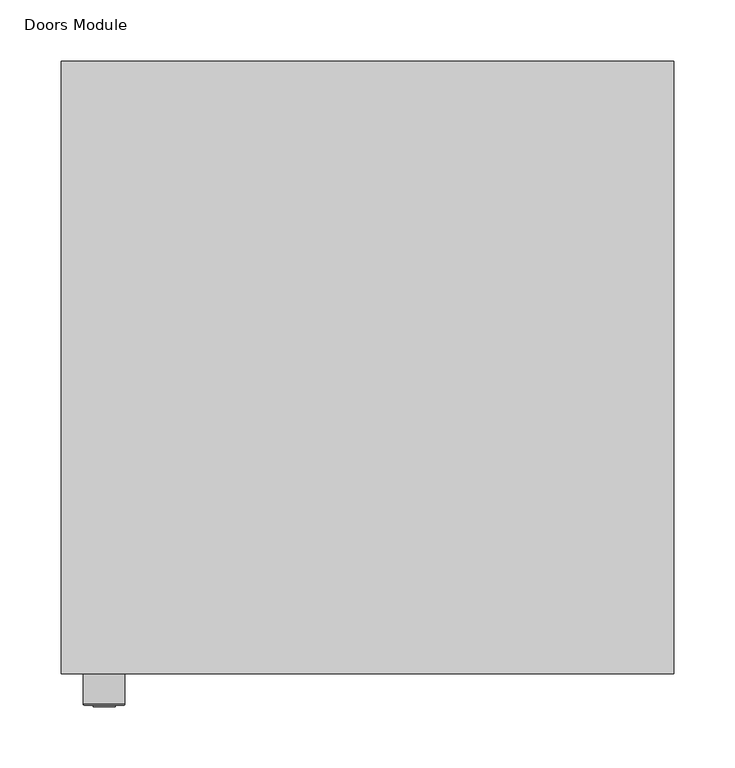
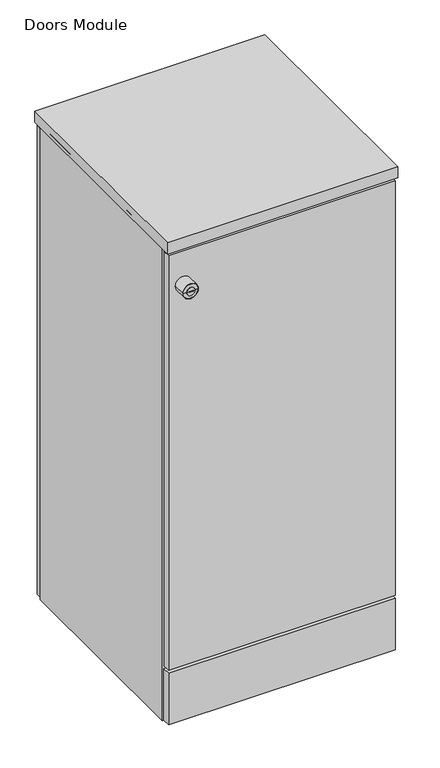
"""IFC4 building model written with IfcOpenShell, lengths in millimetres: furniture geometry, Furniture_Storage_Spacestor_SignatureStoragewall : Doors Module."""

from ifc_helpers import new_model, si_unit, point, frame, origin, origin_with_axes, place, context, project, spatial, polyline, circle_curve, ellipse_curve, trimmed, outline, extrude, source, transform, mapped, element, save
from ifc_brep_helpers import plane_surface, cylinder_surface, revolved_surface, advanced_brep


def doors_module_73139786(model_context):
    return source(origin(), model_context, "Body", "SolidModel", [
        extrude(outline(polyline([(496.5, 459.0), (3.5, 459.0), (3.5, 477.0), (496.5, 477.0), (496.5, 459.0)])), origin_with_axes(), (0.0, 0.0, 1.0), 1078.0),
        extrude(outline(polyline([(496.5, -18.0), (3.5, -18.0), (3.5, 0.0), (496.5, 0.0), (496.5, -18.0)])), origin_with_axes(), (0.0, 0.0, 1.0), 118.0),
        extrude(outline(polyline([(500.0, -20.5), (0.0, -20.5), (0.0, 479.5), (500.0, 479.5), (500.0, -20.5)])), frame((0.0, 0.0, 1085.0), z_axis=(0.0, 0.0, 1.0), x_axis=(1.0, 0.0, 0.0)), (0.0, 0.0, 1.0), 25.5),
        extrude(outline(polyline([(500.0, 0.0), (489.0, 0.0), (489.0, 459.0), (500.0, 459.0), (500.0, 0.0)])), origin_with_axes(), (0.0, 0.0, 1.0), 1092.5),
        extrude(outline(polyline([(11.0, 0.0), (0.0, 0.0), (0.0, 459.0), (11.0, 459.0), (11.0, 0.0)])), origin_with_axes(), (0.0, 0.0, 1.0), 1092.5),
        advanced_brep(
        [(52.0, -45.3116344, 1003.0), (18.0, -45.3116344, 1003.0), (18.0, -18.0, 1003.0), (52.0, -18.0, 1003.0), (35.0, -18.0, 1003.0), (43.9747319, -46.3150077, 1003.0), (26.0252681, -46.3150077, 1003.0), (19.0033734, -46.3150077, 1003.0), (50.9966266, -46.3150077, 1003.0), (43.9747319, -47.4703043, 1003.0), (26.0252681, -47.4703043, 1003.0), (39.8245152, -47.4703043, 1003.0), (39.8245152, -47.4703043, 1001.6366562), (30.1754848, -47.4703043, 1001.6366562), (30.1754848, -47.4703043, 1003.0), (30.1754848, -47.4703043, 1004.3633438), (39.8245152, -47.4703043, 1004.3633438), (30.1754848, -27.8604291, 1001.6366562), (39.8245152, -27.8604291, 1001.6366562), (39.8245152, -27.8604291, 1004.3633438), (30.1754848, -27.8604291, 1004.3633438)],
        [
            (0, 1, circle_curve(frame((35.0, -45.3116344, 1003.0), z_axis=(0.0, 1.0, 0.0), x_axis=(-1.0, 0.0, 0.0)), 17.0)),
            (1, 2),
            (2, 3, circle_curve(frame((35.0, -18.0, 1003.0), z_axis=(0.0, -1.0, 0.0), x_axis=(-1.0, 0.0, 0.0)), 17.0)),
            (3, 0),
            (1, 0, circle_curve(frame((35.0, -45.3116344, 1003.0), z_axis=(0.0, 1.0, 0.0), x_axis=(-1.0, 0.0, 0.0)), 17.0)),
            (3, 2, circle_curve(frame((35.0, -18.0, 1003.0), z_axis=(0.0, -1.0, 0.0), x_axis=(-1.0, 0.0, 0.0)), 17.0)),
            (2, 4),
            (4, 3),
            (5, 6, circle_curve(frame((35.0, -46.3150077, 1003.0), z_axis=(0.0, 1.0, 0.0), x_axis=(-1.0, 0.0, 0.0)), 8.9747319)),
            (6, 7),
            (7, 8, circle_curve(frame((35.0, -46.3150077, 1003.0), z_axis=(0.0, -1.0, 0.0), x_axis=(-1.0, 0.0, 0.0)), 15.9966266)),
            (8, 5),
            (6, 5, circle_curve(frame((35.0, -46.3150077, 1003.0), z_axis=(0.0, 1.0, 0.0), x_axis=(-1.0, 0.0, 0.0)), 8.9747319)),
            (8, 7, circle_curve(frame((35.0, -46.3150077, 1003.0), z_axis=(0.0, -1.0, 0.0), x_axis=(-1.0, 0.0, 0.0)), 15.9966266)),
            (0, 8, circle_curve(frame((50.9966266, -45.3116344, 1003.0), z_axis=(0.0, 0.0, -1.0), x_axis=(1.0, 0.0, 0.0)), 1.0033734)),
            (7, 1, circle_curve(frame((19.0033734, -45.3116344, 1003.0), z_axis=(0.0, 0.0, -1.0), x_axis=(-1.0, 0.0, 0.0)), 1.0033734)),
            (5, 9),
            (9, 10, circle_curve(frame((35.0, -47.4703043, 1003.0), z_axis=(0.0, 1.0, 0.0), x_axis=(-1.0, 0.0, 0.0)), 8.9747319)),
            (10, 6),
            (10, 9, circle_curve(frame((35.0, -47.4703043, 1003.0), z_axis=(0.0, 1.0, 0.0), x_axis=(-1.0, 0.0, 0.0)), 8.9747319)),
            (9, 11),
            (11, 12),
            (12, 13),
            (13, 14),
            (14, 10),
            (14, 15),
            (15, 16),
            (16, 11),
            (17, 18),
            (18, 19),
            (19, 20),
            (20, 17),
            (17, 13),
            (12, 18),
            (16, 19),
            (15, 20),
        ],
        [
            cylinder_surface(frame((35.0, -2627.0581012, 1003.0), z_axis=(0.0, -1.0, 0.0), x_axis=(-1.0, 0.0, 0.0)), 17.0),
            plane_surface(frame((35.0, -18.0, 1003.0), z_axis=(0.0, 1.0, 0.0), x_axis=(-1.0, 0.0, 0.0))),
            plane_surface(frame((35.0, -46.3150077, 1003.0), z_axis=(0.0, -1.0, 0.0), x_axis=(-1.0, 0.0, 0.0))),
            revolved_surface(trimmed(ellipse_curve(frame((19.0033734, -45.3116344, 1003.0), z_axis=(0.0, 0.0, 1.0), x_axis=(-1.0, 0.0, 0.0)), 1.0033734, 1.0033734), [point((18.0, -45.3116344, 1003.0))], [point((19.0033734, -46.3150077, 1003.0))], True, "CARTESIAN"), (35.0, -2627.0581012, 1003.0), (0.0, -1.0, 0.0)),
            cylinder_surface(frame((35.0, -2627.0581012, 1003.0), z_axis=(0.0, -1.0, 0.0), x_axis=(-1.0, 0.0, 0.0)), 8.9747319),
            plane_surface(frame((35.0, -47.4703043, 1003.0), z_axis=(0.0, -1.0, 0.0), x_axis=(-1.0, 0.0, 0.0))),
            plane_surface(frame((39.4565249, -27.8604291, 1001.6366562), z_axis=(0.0, -1.0, 0.0), x_axis=(-1.0, 0.0, 0.0))),
            plane_surface(frame((30.1754848, -49.2046383, 1001.6366562), z_axis=(0.0, 0.0, 1.0), x_axis=(0.0, 1.0, 0.0))),
            plane_surface(frame((39.8245152, -49.2046383, 1001.6366562), z_axis=(-1.0, 0.0, 0.0), x_axis=(0.0, 1.0, 0.0))),
            plane_surface(frame((39.8245152, -49.2046383, 1004.3633438), z_axis=(0.0, 0.0, -1.0), x_axis=(0.0, 1.0, 0.0))),
            plane_surface(frame((30.1754848, -49.2046383, 1004.3633438), z_axis=(1.0, 0.0, 0.0), x_axis=(0.0, 1.0, 0.0))),
        ],
        [
            (0, [[1, 2, 3, 4]]),
            (0, [[-2, 5, -4, 6]]),
            (1, [[-3, 7, 8]]),
            (1, [[-6, -8, -7]]),
            (2, [[9, 10, 11, 12]]),
            (2, [[-10, 13, -12, 14]]),
            (3, [[-1, 15, -11, 16]]),
            (3, [[-5, -16, -14, -15]]),
            (4, [[-9, 17, 18, 19]]),
            (4, [[-13, -19, 20, -17]]),
            (5, [[-18, 21, 22, 23, 24, 25]]),
            (5, [[-20, -25, 26, 27, 28, -21]]),
            (6, [[29, 30, 31, 32]]),
            (7, [[-29, 33, -23, 34]]),
            (8, [[-30, -34, -22, -28, 35]]),
            (9, [[-31, -35, -27, 36]]),
            (10, [[-32, -36, -26, -24, -33]]),
        ],
    ),
        extrude(outline(polyline([(3.5, -18.0), (3.5, 0.0), (496.5, 0.0), (496.5, -18.0), (3.5, -18.0)])), frame((0.0, 0.0, 125.0), z_axis=(0.0, 0.0, 1.0), x_axis=(1.0, 0.0, 0.0)), (0.0, 0.0, 1.0), 953.0),
        extrude(outline(polyline([(496.5, -18.0), (3.5, -18.0), (3.5, 0.0), (496.5, 0.0), (496.5, -18.0)])), frame((0.0, 0.0, 125.0), z_axis=(0.0, 0.0, 1.0), x_axis=(1.0, 0.0, 0.0)), (0.0, 0.0, 1.0), 953.0),
        extrude(outline(polyline([(489.0, 0.0), (11.0, 0.0), (11.0, 459.0), (489.0, 459.0), (489.0, 0.0)])), frame((0.0, 0.0, 110.5), z_axis=(0.0, 0.0, 1.0), x_axis=(1.0, 0.0, 0.0)), (0.0, 0.0, 1.0), 22.0),
        extrude(outline(polyline([(489.0, 0.0), (11.0, 0.0), (11.0, 459.0), (489.0, 459.0), (489.0, 0.0)])), frame((0.0, 0.0, 1070.0), z_axis=(0.0, 0.0, 1.0), x_axis=(1.0, 0.0, 0.0)), (0.0, 0.0, 1.0), 22.0),
    ])


if __name__ == "__main__":
    model = new_model("IFC4")
    model_context = context("Model", 3, world=origin())
    ifc_project = project(units=[si_unit("LENGTHUNIT", "METRE", prefix="MILLI")], contexts=[model_context])
    site = spatial("IfcSite", under=ifc_project)
    building = spatial("IfcBuilding", under=site)
    placement = place(None, origin())
    doors_module_shape = doors_module_73139786(model_context)
    element("IfcFurniture", 1, ObjectType="Furniture_Storage_Spacestor_SignatureStoragewall : Doors Module", at=placement, inside=building, context=model_context, shape_type="MappedRepresentation", body=[
        mapped(doors_module_shape, transform((0.0, 0.0, 0.0), x_axis=(1.0, 0.0, 0.0), y_axis=(0.0, 1.0, 0.0), z_axis=(0.0, 0.0, 1.0))),
    ])
    save(model, "model.ifc")
